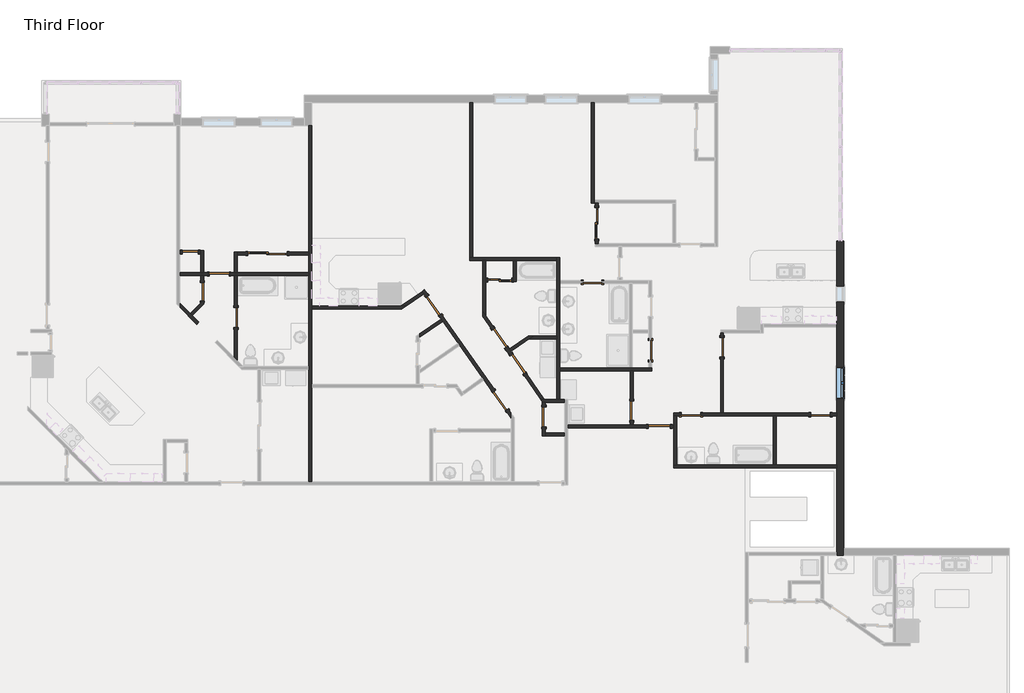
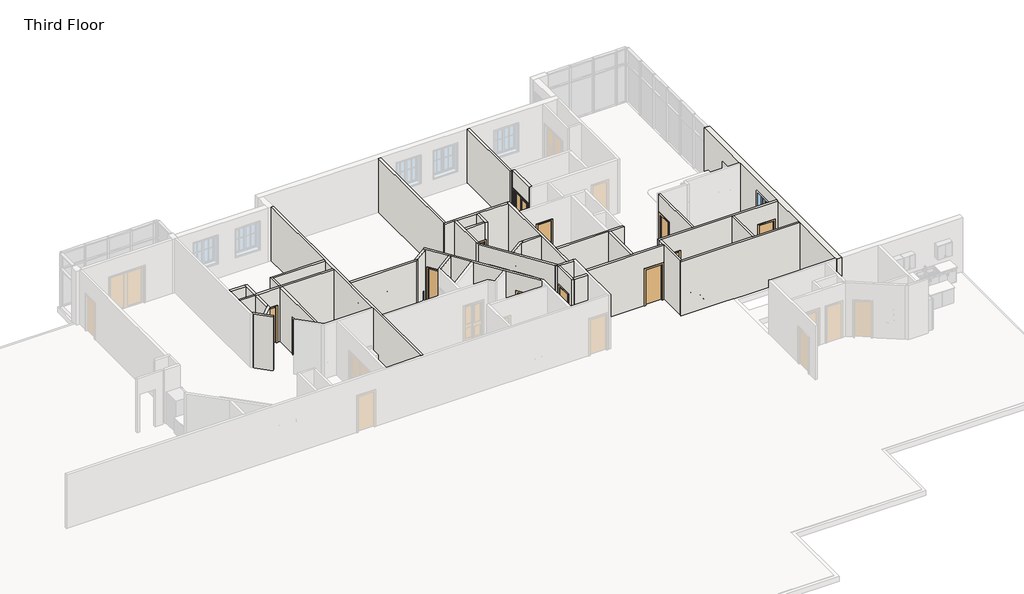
# One storey, part 11 of 17: 37 walls, 19 doors, 1 window.
"""IFC4 building model written with IfcOpenShell, lengths in millimetres."""

from ifc_helpers import new_model, si_unit, frame, origin, place, context, project, spatial, polyline, outline, extrude, faceted_brep, transform, mapped, element, save
from components import door_e2285e44, door_f2586ccf, door_2d0eeab4, door_d8f5dbb5, door_f2b275c1, door_825b8444, door_c29894e6, door_88c23cd7, door_900f836f, door_2e7ec8be, window_33528cc2

model = new_model("IFC4")

# Units and contexts
model_context = context("Model", 3, world=origin())
ifc_project = project(units=[si_unit("LENGTHUNIT", "METRE", prefix="MILLI")], contexts=[model_context])

# Site, building, storey
site = spatial("IfcSite", under=ifc_project)
building = spatial("IfcBuilding", under=site)
storey = spatial("IfcBuildingStorey", under=building, Name="Third Floor", Elevation=6096.0)

# Doors
placement = place(None, origin())
door_shape = door_e2285e44(model_context)
element("IfcDoor", 1, ObjectType="Single-Flush : 24\" x 80\"", at=placement, inside=storey, context=model_context, shape_type="MappedRepresentation", body=[
    mapped(door_shape, transform((32134.1490863, 11206.8738431, 6096.0), x_axis=(-1.0, 0.0, 0.0), y_axis=(0.0, -1.0, 0.0), z_axis=(0.0, 0.0, 1.0))),
])
door_2_shape = door_f2586ccf(model_context)
element("IfcDoor", 2, ObjectType="Single-Flush : 28\" x 80\"", at=placement, inside=storey, context=model_context, shape_type="MappedRepresentation", body=[
    mapped(door_2_shape, transform((32600.8503506, 9684.7566317, 6096.0), x_axis=(0.0, -1.0, 0.0), y_axis=(1.0, 0.0, 0.0), z_axis=(0.0, 0.0, 1.0))),
])
door_3_shape = door_2d0eeab4(model_context)
element("IfcDoor", 3, ObjectType="Single-Flush : 28\" x 80\"", at=placement, inside=storey, context=model_context, shape_type="MappedRepresentation", body=[
    mapped(door_3_shape, transform((47614.8260153, 10045.1667096, 6096.0), x_axis=(1.0, 0.0, 0.0), y_axis=(0.0, 1.0, 0.0), z_axis=(0.0, 0.0, 1.0))),
])
door_4_shape = door_d8f5dbb5(model_context)
element("IfcDoor", 4, ObjectType="Single-Flush : 30\" x 80\"", at=placement, inside=storey, context=model_context, shape_type="MappedRepresentation", body=[
    mapped(door_4_shape, transform((45750.4941402, 4857.5393477, 6096.0), x_axis=(0.0, 1.0, 0.0), y_axis=(-1.0, 0.0, 0.0), z_axis=(0.0, 0.0, 1.0))),
])
element("IfcDoor", 5, ObjectType="Single-Flush : 30\" x 80\"", at=placement, inside=storey, context=model_context, shape_type="MappedRepresentation", body=[
    mapped(door_4_shape, transform((51410.1982354, 4944.5386142, 6096.0), x_axis=(-1.0, 0.0, 0.0), y_axis=(0.0, -1.0, 0.0), z_axis=(0.0, 0.0, 1.0))),
])
element("IfcDoor", 6, ObjectType="Single-Flush : 30\" x 80\"", at=placement, inside=storey, context=model_context, shape_type="MappedRepresentation", body=[
    mapped(door_4_shape, transform((49850.4788879, 7420.455328, 6096.0), x_axis=(0.0, -1.0, 0.0), y_axis=(1.0, 0.0, 0.0), z_axis=(0.0, 0.0, 1.0))),
])
door_5_shape = door_f2b275c1(model_context)
element("IfcDoor", 7, ObjectType="Single-Flush : 30\" x 80\"", at=placement, inside=storey, context=model_context, shape_type="MappedRepresentation", body=[
    mapped(door_5_shape, transform((33248.5503506, 10357.9910099, 6096.0), x_axis=(-1.0, 0.0, 0.0), y_axis=(0.0, -1.0, 0.0), z_axis=(0.0, 0.0, 1.0))),
])
element("IfcDoor", 8, ObjectType="Single-Flush : 30\" x 80\"", at=placement, inside=storey, context=model_context, shape_type="MappedRepresentation", body=[
    mapped(door_5_shape, transform((33896.2503506, 8681.5910099, 6096.0), x_axis=(0.0, 1.0, 0.0), y_axis=(-1.0, 0.0, 0.0), z_axis=(0.0, 0.0, 1.0))),
])
element("IfcDoor", 9, ObjectType="Single-Flush : 30\" x 80\"", at=placement, inside=storey, context=model_context, shape_type="MappedRepresentation", body=[
    mapped(door_5_shape, transform((49133.9272963, 5096.9386142, 6096.0), x_axis=(0.0, -1.0, 0.0), y_axis=(1.0, 0.0, 0.0), z_axis=(0.0, 0.0, 1.0))),
])
element("IfcDoor", 10, ObjectType="Single-Flush : 30\" x 80\"", at=placement, inside=storey, context=model_context, shape_type="MappedRepresentation", body=[
    mapped(door_5_shape, transform((52607.3485135, 7538.9439464, 6096.0), x_axis=(0.0, 1.0, 0.0), y_axis=(-1.0, 0.0, 0.0), z_axis=(0.0, 0.0, 1.0))),
])
element("IfcDoor", 11, ObjectType="Single-Flush : 30\" x 80\"", at=placement, inside=storey, context=model_context, shape_type="MappedRepresentation", body=[
    mapped(door_5_shape, transform((56399.0962704, 4944.5386142, 6096.0), x_axis=(1.0, 0.0, 0.0), y_axis=(0.0, 1.0, 0.0), z_axis=(0.0, 0.0, 1.0))),
])
door_6_shape = door_825b8444(model_context)
element("IfcDoor", 12, ObjectType="Single-Flush : 34\" x 80\"", at=placement, inside=storey, context=model_context, shape_type="MappedRepresentation", body=[
    mapped(door_6_shape, transform((44075.379577, 5485.5706082, 6096.0), x_axis=(0.5735764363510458, -0.8191520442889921, 0.0), y_axis=(0.8191520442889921, 0.5735764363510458, 0.0), z_axis=(0.0, 0.0, 1.0))),
])
element("IfcDoor", 13, ObjectType="Single-Flush : 34\" x 80\"", at=placement, inside=storey, context=model_context, shape_type="MappedRepresentation", body=[
    mapped(door_6_shape, transform((44748.5781815, 6887.1795824, 6096.0), x_axis=(-0.5735764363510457, 0.819152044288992, 0.0), y_axis=(-0.819152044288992, -0.5735764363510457, 0.0), z_axis=(0.0, 0.0, 1.0))),
])
door_7_shape = door_c29894e6(model_context)
element("IfcDoor", 14, ObjectType="Single-Flush : 34\" x 80\"", at=placement, inside=storey, context=model_context, shape_type="MappedRepresentation", body=[
    mapped(door_7_shape, transform((41510.2711658, 9148.9250727, 6096.0), x_axis=(-0.5735764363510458, 0.8191520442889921, 0.0), y_axis=(-0.8191520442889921, -0.5735764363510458, 0.0), z_axis=(0.0, 0.0, 1.0))),
])
element("IfcDoor", 15, ObjectType="Single-Flush : 34\" x 80\"", at=placement, inside=storey, context=model_context, shape_type="MappedRepresentation", body=[
    mapped(door_7_shape, transform((44049.2737903, 7885.8897548, 6096.0), x_axis=(0.5735764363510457, -0.819152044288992, 0.0), y_axis=(0.819152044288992, 0.5735764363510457, 0.0), z_axis=(0.0, 0.0, 1.0))),
])
element("IfcDoor", 16, ObjectType="Single-Flush : 34\" x 80\"", at=placement, inside=storey, context=model_context, shape_type="MappedRepresentation", body=[
    mapped(door_7_shape, transform((50190.9982354, 4487.3386142, 6096.0), x_axis=(1.0, 0.0, 0.0), y_axis=(0.0, 1.0, 0.0), z_axis=(0.0, 0.0, 1.0))),
])
door_8_shape = door_88c23cd7(model_context)
element("IfcDoor", 17, ObjectType="Sliding-Closet : 36\" x 80\"", at=placement, inside=storey, context=model_context, shape_type="MappedRepresentation", body=[
    mapped(door_8_shape, transform((44050.8019535, 10258.3378349, 6096.0), x_axis=(-1.0, 0.0, 0.0), y_axis=(0.0, -1.0, 0.0), z_axis=(0.0, 0.0, 1.0))),
])
door_9_shape = door_900f836f(model_context)
element("IfcDoor", 18, ObjectType="Sliding-Closet : 48\" x 80\"", at=placement, inside=storey, context=model_context, shape_type="MappedRepresentation", body=[
    mapped(door_9_shape, transform((47915.2940143, 12314.1601128, 6096.0), x_axis=(0.0, 1.0, 0.0), y_axis=(-1.0, 0.0, 0.0), z_axis=(0.0, 0.0, 1.0))),
])
door_10_shape = door_2e7ec8be(model_context)
element("IfcDoor", 19, ObjectType="Sliding-Closet : 60\" x 80\"", at=placement, inside=storey, context=model_context, shape_type="MappedRepresentation", body=[
    mapped(door_10_shape, transform((35115.4503506, 11022.7238431, 6096.0), x_axis=(1.0, 0.0, 0.0), y_axis=(0.0, 1.0, 0.0), z_axis=(0.0, 0.0, 1.0))),
])

# Walls
element("IfcWall", 20, ObjectType="Exterior - Brick on Wood Stud", at=placement, inside=storey, context=model_context, shape_type="Brep", body=[
    faceted_brep([(57019.8087704, 11632.2044819, 6096.0), (57019.8087704, 8425.9167096, 6096.0), (57019.8087704, 8311.6167096, 6096.0), (57019.8087704, 5001.6886142, 6096.0), (57019.8087704, 4887.3886142, 6096.0), (57019.8087704, 3002.5544819, 6096.0), (57019.8087704, 2888.2544819, 6096.0), (57019.8087704, -370.8512558, 6096.0), (57019.8087704, -485.1512558, 6096.0), (57019.8087704, -485.1512558, 9144.0), (57019.8087704, -370.8512558, 9144.0), (57019.8087704, 2888.2544819, 9144.0), (57019.8087704, 3002.5544819, 9144.0), (57019.8087704, 4887.3886142, 9144.0), (57019.8087704, 5001.6886142, 9144.0), (57019.8087704, 8311.6167096, 9144.0), (57019.8087704, 8425.9167096, 9144.0), (57019.8087704, 11632.2044819, 9144.0), (57019.8087704, 5554.1386142, 8534.4), (57019.8087704, 5554.1386142, 7010.4), (57019.8087704, 6773.3386142, 7010.4), (57019.8087704, 6773.3386142, 8534.4), (57019.8087704, 9283.1667096, 8229.6), (57019.8087704, 9283.1667096, 7010.4), (57019.8087704, 9892.7667096, 7010.4), (57019.8087704, 9892.7667096, 8229.6), (57302.3837704, 11632.2044819, 6096.0), (57302.3837704, 11632.2044819, 9144.0), (57302.3837704, -202.5762558, 9144.0), (57302.3837704, -485.1512558, 9144.0), (57302.3837704, -485.1512558, 6096.0), (57302.3837704, -202.5762558, 6096.0), (57302.3837704, 5554.1386142, 8534.4), (57302.3837704, 6773.3386142, 8534.4), (57302.3837704, 6773.3386142, 7010.4), (57302.3837704, 5554.1386142, 7010.4), (57302.3837704, 9283.1667096, 8229.6), (57302.3837704, 9892.7667096, 8229.6), (57302.3837704, 9892.7667096, 7010.4), (57302.3837704, 9283.1667096, 7010.4)], [[[0, 1, 2, 3, 4, 5, 6, 7, 8, 9, 10, 11, 12, 13, 14, 15, 16, 17], [18, 19, 20, 21], [22, 23, 24, 25]], [[26, 27, 28, 29, 30, 31], [32, 33, 34, 35], [36, 37, 38, 39]], [[8, 7, 6, 5, 4, 3, 2, 1, 0, 26, 31, 30]], [[17, 16, 15, 14, 13, 12, 11, 10, 9, 29, 28, 27]], [[0, 17, 27, 26]], [[19, 18, 32, 35]], [[20, 19, 35, 34]], [[21, 20, 34, 33]], [[18, 21, 33, 32]], [[23, 22, 36, 39]], [[24, 23, 39, 38]], [[25, 24, 38, 37]], [[22, 25, 37, 36]], [[9, 8, 30, 29]]]),
])
element("IfcWall", 21, ObjectType="Interior - 4 1/2\" Partition", at=placement, inside=storey, context=model_context, shape_type="Brep", body=[
    faceted_brep([(57019.8087704, 3002.5544819, 6096.0), (54695.8146836, 3002.5544819, 6096.0), (54581.5146836, 3002.5544819, 6096.0), (50857.7482354, 3002.5544819, 6096.0), (50743.4482354, 3002.5544819, 6096.0), (50743.4482354, 3002.5544819, 9144.0), (50857.7482354, 3002.5544819, 9144.0), (54581.5146836, 3002.5544819, 9144.0), (54695.8146836, 3002.5544819, 9144.0), (57019.8087704, 3002.5544819, 9144.0), (57019.8087704, 2888.2544819, 6096.0), (57019.8087704, 2888.2544819, 9144.0), (50743.4482354, 2888.2544819, 9144.0), (50743.4482354, 2888.2544819, 6096.0)], [[[0, 1, 2, 3, 4, 5, 6, 7, 8, 9]], [[10, 11, 12, 13]], [[4, 3, 2, 1, 0, 10, 13]], [[9, 8, 7, 6, 5, 12, 11]], [[5, 4, 13, 12]], [[0, 9, 11, 10]]]),
])
element("IfcWall", 22, ObjectType="Interior - 4 1/2\" Partition", at=placement, inside=storey, context=model_context, shape_type="Brep", body=[
    faceted_brep([(50857.7482354, 3002.5544819, 6096.0), (50857.7482354, 4887.3886142, 6096.0), (50857.7482354, 4887.3886142, 9144.0), (50857.7482354, 3002.5544819, 9144.0), (50743.4482354, 3002.5544819, 6096.0), (50743.4482354, 3002.5544819, 9144.0), (50743.4482354, 4430.1886142, 9144.0), (50743.4482354, 4544.4886142, 9144.0), (50743.4482354, 4887.3886142, 9144.0), (50743.4482354, 4887.3886142, 6096.0), (50743.4482354, 4544.4886142, 6096.0), (50743.4482354, 4430.1886142, 6096.0)], [[[0, 1, 2, 3]], [[4, 5, 6, 7, 8, 9, 10, 11]], [[1, 0, 4, 11, 10, 9]], [[3, 2, 8, 7, 6, 5]], [[2, 1, 9, 8]], [[0, 3, 5, 4]]]),
])
element("IfcWall", 23, ObjectType="Interior - 4 1/2\" Partition", at=placement, inside=storey, context=model_context, shape_type="Brep", body=[
    faceted_brep([(50743.4482354, 4544.4886142, 6096.0), (50622.7982354, 4544.4886142, 6096.0), (50622.7982354, 4544.4886142, 8128.0), (49759.1982354, 4544.4886142, 8128.0), (49759.1982354, 4544.4886142, 6096.0), (49191.0772963, 4544.4886142, 6096.0), (49076.7772963, 4544.4886142, 6096.0), (46668.7626872, 4544.4886142, 6096.0), (46668.7626872, 4544.4886142, 9144.0), (49076.7772963, 4544.4886142, 9144.0), (49191.0772963, 4544.4886142, 9144.0), (50743.4482354, 4544.4886142, 9144.0), (50622.7982354, 4430.1886142, 8128.0), (50622.7982354, 4430.1886142, 6096.0), (50743.4482354, 4430.1886142, 6096.0), (50743.4482354, 4430.1886142, 9144.0), (46668.7626872, 4430.1886142, 9144.0), (46668.7626872, 4430.1886142, 6096.0), (49759.1982354, 4430.1886142, 6096.0), (49759.1982354, 4430.1886142, 8128.0)], [[[0, 1, 2, 3, 4, 5, 6, 7, 8, 9, 10, 11]], [[12, 13, 14, 15, 16, 17, 18, 19]], [[18, 17, 7, 6, 5, 4]], [[14, 13, 1, 0]], [[11, 10, 9, 8, 16, 15]], [[2, 1, 13, 12]], [[3, 2, 12, 19]], [[4, 3, 19, 18]], [[8, 7, 17, 16]], [[0, 11, 15, 14]]]),
])
element("IfcWall", 24, ObjectType="Interior - 4 1/2\" Partition", at=placement, inside=storey, context=model_context, shape_type="Brep", body=[
    faceted_brep([(46554.4626872, 5524.2893477, 6096.0), (46352.4352525, 5524.2893477, 6096.0), (46238.1352525, 5524.2893477, 6096.0), (45772.6514653, 5524.2893477, 6096.0), (45633.1169298, 5524.2893477, 6096.0), (45633.1169298, 5524.2893477, 9144.0), (45772.6514653, 5524.2893477, 9144.0), (46238.1352525, 5524.2893477, 9144.0), (46352.4352525, 5524.2893477, 9144.0), (46554.4626872, 5524.2893477, 9144.0), (46554.4626872, 5409.9893477, 6096.0), (46554.4626872, 5409.9893477, 9144.0), (45807.6441402, 5409.9893477, 9144.0), (45713.1506514, 5409.9893477, 9144.0), (45713.1506514, 5409.9893477, 6096.0), (45807.6441402, 5409.9893477, 6096.0), (45693.3441402, 5438.2759773, 6096.0), (45693.3441402, 5438.2759773, 9144.0)], [[[0, 1, 2, 3, 4, 5, 6, 7, 8, 9]], [[10, 11, 12, 13, 14, 15]], [[4, 3, 2, 1, 0, 10, 15, 14, 16]], [[9, 8, 7, 6, 5, 17, 13, 12, 11]], [[5, 4, 16, 14, 13, 17]], [[0, 9, 11, 10]]]),
])
element("IfcWall", 25, ObjectType="Interior - 4 1/2\" Partition", at=placement, inside=storey, context=model_context, shape_type="Brep", body=[
    faceted_brep([(46352.4352525, 5524.2893477, 6096.0), (46352.4352525, 6635.2167096, 6096.0), (46352.4352525, 6749.5167096, 6096.0), (46352.4352525, 9988.0167096, 6096.0), (46352.4352525, 10102.3167096, 6096.0), (46352.4352525, 11001.2878349, 6096.0), (46352.4352525, 11001.2878349, 9144.0), (46352.4352525, 10102.3167096, 9144.0), (46352.4352525, 9988.0167096, 9144.0), (46352.4352525, 6749.5167096, 9144.0), (46352.4352525, 6635.2167096, 9144.0), (46352.4352525, 5524.2893477, 9144.0), (46238.1352525, 5524.2893477, 6096.0), (46238.1352525, 5524.2893477, 9144.0), (46238.1352525, 7864.8634145, 9144.0), (46238.1352525, 7979.1634145, 9144.0), (46238.1352525, 10886.9878349, 9144.0), (46238.1352525, 11001.2878349, 9144.0), (46238.1352525, 11001.2878349, 6096.0), (46238.1352525, 10886.9878349, 6096.0), (46238.1352525, 7979.1634145, 6096.0), (46238.1352525, 7864.8634145, 6096.0)], [[[0, 1, 2, 3, 4, 5, 6, 7, 8, 9, 10, 11]], [[12, 13, 14, 15, 16, 17, 18, 19, 20, 21]], [[5, 4, 3, 2, 1, 0, 12, 21, 20, 19, 18]], [[11, 10, 9, 8, 7, 6, 17, 16, 15, 14, 13]], [[6, 5, 18, 17]], [[0, 11, 13, 12]]]),
])
element("IfcWall", 26, ObjectType="Interior - 4 1/2\" Partition", at=placement, inside=storey, context=model_context, shape_type="Brep", body=[
    faceted_brep([(46238.1352525, 11001.2878349, 6096.0), (43004.4928001, 11001.2878349, 6096.0), (42890.1928001, 11001.2878349, 6096.0), (42890.1928001, 11001.2878349, 9144.0), (43004.4928001, 11001.2878349, 9144.0), (46238.1352525, 11001.2878349, 9144.0), (46238.1352525, 10886.9878349, 6096.0), (46238.1352525, 10886.9878349, 9144.0), (44678.4640263, 10886.9878349, 9144.0), (44564.1640263, 10886.9878349, 9144.0), (43512.0398807, 10886.9878349, 9144.0), (43397.7398807, 10886.9878349, 9144.0), (42890.1928001, 10886.9878349, 9144.0), (42890.1928001, 10886.9878349, 6096.0), (43397.7398807, 10886.9878349, 6096.0), (43512.0398807, 10886.9878349, 6096.0), (44564.1640263, 10886.9878349, 6096.0), (44678.4640263, 10886.9878349, 6096.0)], [[[0, 1, 2, 3, 4, 5]], [[6, 7, 8, 9, 10, 11, 12, 13, 14, 15, 16, 17]], [[2, 1, 0, 6, 17, 16, 15, 14, 13]], [[5, 4, 3, 12, 11, 10, 9, 8, 7]], [[3, 2, 13, 12]], [[0, 5, 7, 6]]]),
])
element("IfcWall", 27, ObjectType="Interior - 4 1/2\" Partition", at=placement, inside=storey, context=model_context, shape_type="SweptSolid", body=[
    extrude(outline(polyline([(43004.4928001, 16964.1039258), (43004.4928001, 11001.2878349), (42890.1928001, 11001.2878349), (42890.1928001, 16964.1039258), (43004.4928001, 16964.1039258)])), frame((0.0, 0.0, 6096.0), z_axis=(0.0, 0.0, 1.0), x_axis=(1.0, 0.0, 0.0)), (0.0, 0.0, 1.0), 3048.0),
])
element("IfcWall", 28, ObjectType="Interior - 4 1/2\" Partition", at=placement, inside=storey, context=model_context, shape_type="Brep", body=[
    faceted_brep([(47578.7440143, 16964.1039258, 6096.0), (47578.7440143, 13091.2456698, 6096.0), (47578.7440143, 13091.2456698, 9144.0), (47578.7440143, 16964.1039258, 9144.0), (47693.0440143, 16964.1039258, 6096.0), (47693.0440143, 16964.1039258, 9144.0), (47693.0440143, 13205.5456698, 9144.0), (47693.0440143, 13091.2456698, 9144.0), (47693.0440143, 13091.2456698, 6096.0), (47693.0440143, 13205.5456698, 6096.0)], [[[0, 1, 2, 3]], [[4, 5, 6, 7, 8, 9]], [[1, 0, 4, 9, 8]], [[3, 2, 7, 6, 5]], [[2, 1, 8, 7]], [[0, 3, 5, 4]]]),
])
element("IfcWall", 29, ObjectType="Interior - 4 1/2\" Partition", at=placement, inside=storey, context=model_context, shape_type="SweptSolid", body=[
    extrude(outline(polyline([(13091.2456698, 6096.0), (12923.7601128, 6096.0), (12923.7601128, 8128.0), (11704.5601128, 8128.0), (11704.5601128, 6096.0), (11537.0745559, 6096.0), (11537.0745559, 9144.0), (13091.2456698, 9144.0), (13091.2456698, 6096.0)])), frame((47731.1440143, 0.0, 0.0), z_axis=(1.0, 0.0, 0.0), x_axis=(0.0, 1.0, 0.0)), (0.0, 0.0, 1.0), 114.3),
])
element("IfcWall", 30, ObjectType="Interior - 4 1/2\" Partition", at=placement, inside=storey, context=model_context, shape_type="Brep", body=[
    faceted_brep([(46352.4352525, 6635.2167096, 6096.0), (49076.7772963, 6635.2167096, 6096.0), (49191.0772963, 6635.2167096, 6096.0), (49907.6288879, 6635.2167096, 6096.0), (49907.6288879, 6635.2167096, 9144.0), (49191.0772963, 6635.2167096, 9144.0), (49076.7772963, 6635.2167096, 9144.0), (46352.4352525, 6635.2167096, 9144.0), (46352.4352525, 6749.5167096, 6096.0), (46352.4352525, 6749.5167096, 9144.0), (49032.3272963, 6749.5167096, 9144.0), (49146.6272963, 6749.5167096, 9144.0), (49793.3288879, 6749.5167096, 9144.0), (49907.6288879, 6749.5167096, 9144.0), (49907.6288879, 6749.5167096, 6096.0), (49793.3288879, 6749.5167096, 6096.0), (49146.6272963, 6749.5167096, 6096.0), (49032.3272963, 6749.5167096, 6096.0)], [[[0, 1, 2, 3, 4, 5, 6, 7]], [[8, 9, 10, 11, 12, 13, 14, 15, 16, 17]], [[3, 2, 1, 0, 8, 17, 16, 15, 14]], [[7, 6, 5, 4, 13, 12, 11, 10, 9]], [[4, 3, 14, 13]], [[0, 7, 9, 8]]]),
])
element("IfcWall", 31, ObjectType="Interior - 4 1/2\" Partition", at=placement, inside=storey, context=model_context, shape_type="SweptSolid", body=[
    extrude(outline(polyline([(4715.9386142, 8128.0), (4715.9386142, 6096.0), (4544.4886142, 6096.0), (4544.4886142, 9144.0), (6635.2167096, 9144.0), (6635.2167096, 6096.0), (5477.9386142, 6096.0), (5477.9386142, 8128.0), (4715.9386142, 8128.0)])), frame((49076.7772963, 0.0, 0.0), z_axis=(1.0, 0.0, 0.0), x_axis=(0.0, 1.0, 0.0)), (0.0, 0.0, 1.0), 114.3),
])
element("IfcWall", 32, ObjectType="Interior - 4 1/2\" Partition", at=placement, inside=storey, context=model_context, shape_type="Brep", body=[
    faceted_brep([(57019.8087704, 5001.6886142, 6096.0), (56780.0962704, 5001.6886142, 6096.0), (56780.0962704, 5001.6886142, 8128.0), (56018.0962704, 5001.6886142, 8128.0), (56018.0962704, 5001.6886142, 6096.0), (52664.4985135, 5001.6886142, 6096.0), (52550.1985135, 5001.6886142, 6096.0), (51791.1982354, 5001.6886142, 6096.0), (51791.1982354, 5001.6886142, 8128.0), (51029.1982354, 5001.6886142, 8128.0), (51029.1982354, 5001.6886142, 6096.0), (50743.4482354, 5001.6886142, 6096.0), (50743.4482354, 5001.6886142, 9144.0), (52550.1985135, 5001.6886142, 9144.0), (52664.4985135, 5001.6886142, 9144.0), (57019.8087704, 5001.6886142, 9144.0), (56780.0962704, 4887.3886142, 8128.0), (56780.0962704, 4887.3886142, 6096.0), (57019.8087704, 4887.3886142, 6096.0), (57019.8087704, 4887.3886142, 9144.0), (54695.8146836, 4887.3886142, 9144.0), (54581.5146836, 4887.3886142, 9144.0), (50857.7482354, 4887.3886142, 9144.0), (50743.4482354, 4887.3886142, 9144.0), (50743.4482354, 4887.3886142, 6096.0), (50857.7482354, 4887.3886142, 6096.0), (51029.1982354, 4887.3886142, 6096.0), (51029.1982354, 4887.3886142, 8128.0), (51791.1982354, 4887.3886142, 8128.0), (51791.1982354, 4887.3886142, 6096.0), (54581.5146836, 4887.3886142, 6096.0), (54695.8146836, 4887.3886142, 6096.0), (56018.0962704, 4887.3886142, 6096.0), (56018.0962704, 4887.3886142, 8128.0)], [[[0, 1, 2, 3, 4, 5, 6, 7, 8, 9, 10, 11, 12, 13, 14, 15]], [[16, 17, 18, 19, 20, 21, 22, 23, 24, 25, 26, 27, 28, 29, 30, 31, 32, 33]], [[11, 10, 26, 25, 24]], [[18, 17, 1, 0]], [[32, 31, 30, 29, 7, 6, 5, 4]], [[15, 14, 13, 12, 23, 22, 21, 20, 19]], [[27, 26, 10, 9]], [[28, 27, 9, 8]], [[29, 28, 8, 7]], [[2, 1, 17, 16]], [[3, 2, 16, 33]], [[4, 3, 33, 32]], [[12, 11, 24, 23]], [[0, 15, 19, 18]]]),
])
element("IfcWall", 33, ObjectType="Interior - 4 1/2\" Partition", at=placement, inside=storey, context=model_context, shape_type="SweptSolid", body=[
    extrude(outline(polyline([(54581.5146836, 3002.5544819), (54581.5146836, 4887.3886142), (54695.8146836, 4887.3886142), (54695.8146836, 3002.5544819), (54581.5146836, 3002.5544819)])), frame((0.0, 0.0, 6096.0), z_axis=(0.0, 0.0, 1.0), x_axis=(1.0, 0.0, 0.0)), (0.0, 0.0, 1.0), 3048.0),
])
element("IfcWall", 34, ObjectType="Interior - 4 1/2\" Partition", at=placement, inside=storey, context=model_context, shape_type="SweptSolid", body=[
    extrude(outline(polyline([(8091.3939464, 6096.0), (7919.9439464, 6096.0), (7919.9439464, 8128.0), (7157.9439464, 8128.0), (7157.9439464, 6096.0), (5001.6886142, 6096.0), (5001.6886142, 9144.0), (8091.3939464, 9144.0), (8091.3939464, 6096.0)])), frame((52550.1985135, 0.0, 0.0), z_axis=(1.0, 0.0, 0.0), x_axis=(0.0, 1.0, 0.0)), (0.0, 0.0, 1.0), 114.3),
])
element("IfcWall", 35, ObjectType="Interior - 4 1/2\" Partition", at=placement, inside=storey, context=model_context, shape_type="Brep", body=[
    faceted_brep([(36816.4178001, 2359.3591714, 6096.0), (36816.4178001, 5991.110079, 6096.0), (36816.4178001, 6105.410079, 6096.0), (36816.4178001, 9005.4410099, 6096.0), (36816.4178001, 9119.7410099, 6096.0), (36816.4178001, 16077.0865339, 6096.0), (36816.4178001, 16077.0865339, 9144.0), (36816.4178001, 9119.7410099, 9144.0), (36816.4178001, 9005.4410099, 9144.0), (36816.4178001, 6105.410079, 9144.0), (36816.4178001, 5991.110079, 9144.0), (36816.4178001, 2359.3591714, 9144.0), (36702.1178001, 2359.3591714, 6096.0), (36702.1178001, 2359.3591714, 9144.0), (36702.1178001, 6691.8559423, 9144.0), (36702.1178001, 6806.1559423, 9144.0), (36702.1178001, 10300.8410099, 9144.0), (36702.1178001, 10415.1410099, 9144.0), (36702.1178001, 11092.5738431, 9144.0), (36702.1178001, 11206.8738431, 9144.0), (36702.1178001, 16077.0865339, 9144.0), (36702.1178001, 16077.0865339, 6096.0), (36702.1178001, 11206.8738431, 6096.0), (36702.1178001, 11092.5738431, 6096.0), (36702.1178001, 10415.1410099, 6096.0), (36702.1178001, 10300.8410099, 6096.0), (36702.1178001, 6806.1559423, 6096.0), (36702.1178001, 6691.8559423, 6096.0)], [[[0, 1, 2, 3, 4, 5, 6, 7, 8, 9, 10, 11]], [[12, 13, 14, 15, 16, 17, 18, 19, 20, 21, 22, 23, 24, 25, 26, 27]], [[5, 4, 3, 2, 1, 0, 12, 27, 26, 25, 24, 23, 22, 21]], [[11, 10, 9, 8, 7, 6, 20, 19, 18, 17, 16, 15, 14, 13]], [[0, 11, 13, 12]], [[6, 5, 21, 20]]]),
])
element("IfcWall", 36, ObjectType="Interior - 4 1/2\" Partition", at=placement, inside=storey, context=model_context, shape_type="Brep", body=[
    faceted_brep([(41309.4153999, 9535.4148188, 8128.0), (41309.4153999, 9535.4148188, 6096.0), (41154.070698, 9757.2700452, 6096.0), (41154.070698, 9757.2700452, 9144.0), (44491.9949591, 4990.220165, 9144.0), (44491.9949591, 4990.220165, 6096.0), (44369.8644215, 5164.6406488, 6096.0), (44369.8644215, 5164.6406488, 8128.0), (43874.5238111, 5872.0603542, 8128.0), (43874.5238111, 5872.0603542, 6096.0), (41804.7560103, 8827.9951134, 6096.0), (41804.7560103, 8827.9951134, 8128.0), (41060.4416193, 9691.7102585, 6096.0), (41126.001406, 9598.0811798, 6096.0), (41215.7863212, 9469.8550321, 6096.0), (41215.7863212, 9469.8550321, 8128.0), (41711.1269316, 8762.4353267, 8128.0), (41711.1269316, 8762.4353267, 6096.0), (41800.9118469, 8634.209179, 6096.0), (41866.4716335, 8540.5801003, 6096.0), (42452.1089123, 7704.203388, 6096.0), (42517.668699, 7610.5743093, 6096.0), (43383.893802, 6373.476655, 6096.0), (43449.4535887, 6279.8475763, 6096.0), (43780.8947324, 5806.5005676, 6096.0), (43780.8947324, 5806.5005676, 8128.0), (44276.2353429, 5099.0808621, 8128.0), (44276.2353429, 5099.0808621, 6096.0), (44491.9949591, 4790.9441963, 6096.0), (44491.9949591, 4790.9441963, 9144.0), (43449.4535887, 6279.8475763, 9144.0), (43383.893802, 6373.476655, 9144.0), (42517.668699, 7610.5743093, 9144.0), (42452.1089123, 7704.203388, 9144.0), (41866.4716335, 8540.5801003, 9144.0), (41800.9118469, 8634.209179, 9144.0), (41126.001406, 9598.0811798, 9144.0), (41060.4416193, 9691.7102585, 9144.0)], [[[0, 1, 2, 3, 4, 5, 6, 7, 8, 9, 10, 11]], [[12, 13, 14, 15, 16, 17, 18, 19, 20, 21, 22, 23, 24, 25, 26, 27, 28, 29, 30, 31, 32, 33, 34, 35, 36, 37]], [[28, 27, 6, 5]], [[10, 9, 24, 23, 22, 21, 20, 19, 18, 17]], [[2, 1, 14, 13, 12]], [[4, 3, 37, 36, 35, 34, 33, 32, 31, 30, 29]], [[7, 6, 27, 26]], [[8, 7, 26, 25]], [[9, 8, 25, 24]], [[15, 14, 1, 0]], [[16, 15, 0, 11]], [[17, 16, 11, 10]], [[3, 2, 12, 37]], [[5, 4, 29, 28]]]),
])
element("IfcWall", 37, ObjectType="Interior - 4 1/2\" Partition", at=placement, inside=storey, context=model_context, shape_type="SweptSolid", body=[
    extrude(outline(polyline([(41866.4716335, 8540.5801003), (40960.0847694, 7905.9211855), (40960.0847694, 8045.455721), (41800.9118469, 8634.209179), (41866.4716335, 8540.5801003)])), frame((0.0, 0.0, 6096.0), z_axis=(0.0, 0.0, 1.0), x_axis=(1.0, 0.0, 0.0)), (0.0, 0.0, 1.0), 3048.0),
])
element("IfcWall", 38, ObjectType="Interior - 4 1/2\" Partition", at=placement, inside=storey, context=model_context, shape_type="SweptSolid", body=[
    extrude(outline(polyline([(45807.6441402, 4238.9591714), (46554.4626872, 4238.9591714), (46554.4626872, 4124.6591714), (45807.6441402, 4124.6591714), (45807.6441402, 4238.9591714)])), frame((0.0, 0.0, 6096.0), z_axis=(0.0, 0.0, 1.0), x_axis=(1.0, 0.0, 0.0)), (0.0, 0.0, 1.0), 3048.0),
])
element("IfcWall", 39, ObjectType="Interior - 4 1/2\" Partition", at=placement, inside=storey, context=model_context, shape_type="Brep", body=[
    faceted_brep([(45807.6441402, 5238.5393477, 8128.0), (45807.6441402, 5238.5393477, 6096.0), (45807.6441402, 5409.9893477, 6096.0), (45807.6441402, 5409.9893477, 9144.0), (45807.6441402, 4238.9591714, 9144.0), (45807.6441402, 4124.6591714, 9144.0), (45807.6441402, 4124.6591714, 6096.0), (45807.6441402, 4238.9591714, 6096.0), (45807.6441402, 4476.5393477, 6096.0), (45807.6441402, 4476.5393477, 8128.0), (45693.3441402, 5438.2759773, 6096.0), (45693.3441402, 5238.5393477, 6096.0), (45693.3441402, 5238.5393477, 8128.0), (45693.3441402, 4476.5393477, 8128.0), (45693.3441402, 4476.5393477, 6096.0), (45693.3441402, 4124.6591714, 6096.0), (45693.3441402, 4124.6591714, 9144.0), (45693.3441402, 5438.2759773, 9144.0), (45713.1506514, 5409.9893477, 6096.0), (45713.1506514, 5409.9893477, 9144.0)], [[[0, 1, 2, 3, 4, 5, 6, 7, 8, 9]], [[10, 11, 12, 13, 14, 15, 16, 17]], [[2, 1, 11, 10, 18]], [[8, 7, 6, 15, 14]], [[5, 4, 3, 19, 17, 16]], [[12, 11, 1, 0]], [[13, 12, 0, 9]], [[14, 13, 9, 8]], [[6, 5, 16, 15]], [[3, 2, 18, 19]], [[18, 10, 17, 19]]]),
])
element("IfcWall", 40, ObjectType="Interior - 4 1/2\" Partition", at=placement, inside=storey, context=model_context, shape_type="Brep", body=[
    faceted_brep([(44547.7224156, 7273.6693285, 8128.0), (44547.7224156, 7273.6693285, 6096.0), (44478.5204186, 7372.5000226, 6096.0), (44412.9606319, 7466.1291013, 6096.0), (44343.7586349, 7564.9597954, 6096.0), (44343.7586349, 7564.9597954, 8128.0), (43848.4180244, 8272.3795009, 8128.0), (43848.4180244, 8272.3795009, 6096.0), (43512.0398807, 8752.7772764, 6096.0), (43397.7398807, 8916.0145936, 6096.0), (43397.7398807, 8916.0145936, 9144.0), (43512.0398807, 8752.7772764, 9144.0), (44412.9606319, 7466.1291013, 9144.0), (44478.5204186, 7372.5000226, 9144.0), (45772.6514653, 5524.2893477, 9144.0), (45772.6514653, 5524.2893477, 6096.0), (45043.0630261, 6566.249623, 6096.0), (45043.0630261, 6566.249623, 8128.0), (44250.1295562, 7499.4000087, 6096.0), (44454.093337, 7208.1095418, 6096.0), (44454.093337, 7208.1095418, 8128.0), (44949.4339474, 6500.6898363, 8128.0), (44949.4339474, 6500.6898363, 6096.0), (45633.1169298, 5524.2893477, 6096.0), (45633.1169298, 5524.2893477, 9144.0), (43397.7398807, 8716.7386248, 9144.0), (43397.7398807, 8716.7386248, 6096.0), (43754.7889458, 8206.8197142, 6096.0), (43754.7889458, 8206.8197142, 8128.0), (44250.1295562, 7499.4000087, 8128.0)], [[[0, 1, 2, 3, 4, 5, 6, 7, 8, 9, 10, 11, 12, 13, 14, 15, 16, 17]], [[18, 19, 20, 21, 22, 23, 24, 25, 26, 27, 28, 29]], [[27, 26, 9, 8, 7]], [[16, 15, 23, 22]], [[4, 3, 2, 1, 19, 18]], [[14, 13, 12, 11, 10, 25, 24]], [[5, 4, 18, 29]], [[6, 5, 29, 28]], [[7, 6, 28, 27]], [[20, 19, 1, 0]], [[21, 20, 0, 17]], [[22, 21, 17, 16]], [[10, 9, 26, 25]], [[15, 14, 24, 23]]]),
])
element("IfcWall", 41, ObjectType="Interior - 4 1/2\" Partition", at=placement, inside=storey, context=model_context, shape_type="Brep", body=[
    faceted_brep([(43512.0398807, 8752.7772764, 6096.0), (43512.0398807, 10074.1878349, 6096.0), (43512.0398807, 10188.4878349, 6096.0), (43512.0398807, 10886.9878349, 6096.0), (43512.0398807, 10886.9878349, 9144.0), (43512.0398807, 10188.4878349, 9144.0), (43512.0398807, 10074.1878349, 9144.0), (43512.0398807, 8752.7772764, 9144.0), (43397.7398807, 8916.0145936, 6096.0), (43397.7398807, 8916.0145936, 9144.0), (43397.7398807, 10886.9878349, 9144.0), (43397.7398807, 10886.9878349, 6096.0)], [[[0, 1, 2, 3, 4, 5, 6, 7]], [[8, 9, 10, 11]], [[3, 2, 1, 0, 8, 11]], [[7, 6, 5, 4, 10, 9]], [[0, 7, 9, 8]], [[4, 3, 11, 10]]]),
])
element("IfcWall", 42, ObjectType="Interior - 4 1/2\" Partition", at=placement, inside=storey, context=model_context, shape_type="Brep", body=[
    faceted_brep([(44478.5204186, 7372.5000226, 6096.0), (45181.6882153, 7864.8634145, 6096.0), (45344.9255324, 7979.1634145, 6096.0), (45344.9255324, 7979.1634145, 9144.0), (45181.6882153, 7864.8634145, 9144.0), (44478.5204186, 7372.5000226, 9144.0), (44412.9606319, 7466.1291013, 6096.0), (44412.9606319, 7466.1291013, 9144.0), (45145.6495637, 7979.1634145, 9144.0), (45145.6495637, 7979.1634145, 6096.0)], [[[0, 1, 2, 3, 4, 5]], [[6, 7, 8, 9]], [[2, 1, 0, 6, 9]], [[5, 4, 3, 8, 7]], [[3, 2, 9, 8]], [[0, 5, 7, 6]]]),
])
element("IfcWall", 43, ObjectType="Interior - 4 1/2\" Partition", at=placement, inside=storey, context=model_context, shape_type="SweptSolid", body=[
    extrude(outline(polyline([(46238.1352525, 7864.8634145), (45181.6882153, 7864.8634145), (45344.9255324, 7979.1634145), (46238.1352525, 7979.1634145), (46238.1352525, 7864.8634145)])), frame((0.0, 0.0, 6096.0), z_axis=(0.0, 0.0, 1.0), x_axis=(1.0, 0.0, 0.0)), (0.0, 0.0, 1.0), 3048.0),
])
element("IfcWall", 44, ObjectType="Interior - 4 1/2\" Partition", at=placement, inside=storey, context=model_context, shape_type="Brep", body=[
    faceted_brep([(36816.4178001, 9005.4410099, 6096.0), (40279.6235286, 9005.4410099, 6096.0), (40279.6235286, 9005.4410099, 9144.0), (36816.4178001, 9005.4410099, 9144.0), (36816.4178001, 9119.7410099, 6096.0), (36816.4178001, 9119.7410099, 9144.0), (40243.584877, 9119.7410099, 9144.0), (40442.8608458, 9119.7410099, 9144.0), (40442.8608458, 9119.7410099, 6096.0), (40243.584877, 9119.7410099, 6096.0)], [[[0, 1, 2, 3]], [[4, 5, 6, 7, 8, 9]], [[1, 0, 4, 9, 8]], [[3, 2, 7, 6, 5]], [[2, 1, 8, 7]], [[0, 3, 5, 4]]]),
])
element("IfcWall", 45, ObjectType="Interior - 4 1/2\" Partition", at=placement, inside=storey, context=model_context, shape_type="SweptSolid", body=[
    extrude(outline(polyline([(41126.001406, 9598.0811798), (40442.8608458, 9119.7410099), (40243.584877, 9119.7410099), (41060.4416193, 9691.7102585), (41126.001406, 9598.0811798)])), frame((0.0, 0.0, 6096.0), z_axis=(0.0, 0.0, 1.0), x_axis=(1.0, 0.0, 0.0)), (0.0, 0.0, 1.0), 3048.0),
])
element("IfcWall", 46, ObjectType="Interior - 4 1/2\" Partition", at=placement, inside=storey, context=model_context, shape_type="Brep", body=[
    faceted_brep([(32214.8764443, 8760.7604203, 6096.0), (32658.0003506, 9203.8843266, 6096.0), (32658.0003506, 9203.8843266, 9144.0), (32214.8764443, 8760.7604203, 9144.0), (32134.0541392, 8841.5827254, 9144.0), (32543.7003506, 9251.2289368, 9144.0), (32658.0003506, 9365.5289368, 9144.0), (32658.0003506, 9365.5289368, 8128.0), (32621.6280455, 9329.1566317, 8128.0), (32621.6280455, 9329.1566317, 6096.0), (32543.7003506, 9251.2289368, 6096.0), (32134.0541392, 8841.5827254, 6096.0), (32658.0003506, 9329.1566317, 6096.0), (32658.0003506, 9329.1566317, 8128.0)], [[[0, 1, 2, 3]], [[4, 5, 6, 7, 8, 9, 10, 11]], [[1, 0, 11, 10, 9, 12]], [[3, 2, 6, 5, 4]], [[8, 13, 12, 9]], [[13, 8, 7]], [[2, 1, 12, 13, 7, 6]], [[0, 3, 4, 11]]]),
])
element("IfcWall", 47, ObjectType="Interior - 4 1/2\" Partition", at=placement, inside=storey, context=model_context, shape_type="Brep", body=[
    faceted_brep([(32658.0003506, 10300.8410099, 9144.0), (32658.0003506, 9365.5289368, 9144.0), (32658.0003506, 9365.5289368, 8128.0), (32658.0003506, 10040.3566317, 8128.0), (32658.0003506, 10040.3566317, 6096.0), (32658.0003506, 10300.8410099, 6096.0), (32543.7003506, 9251.2289368, 9144.0), (32543.7003506, 10300.8410099, 9144.0), (32543.7003506, 10300.8410099, 6096.0), (32543.7003506, 10040.3566317, 6096.0), (32543.7003506, 10040.3566317, 8128.0), (32543.7003506, 9329.1566317, 8128.0), (32543.7003506, 9329.1566317, 6096.0), (32543.7003506, 9251.2289368, 6096.0), (32621.6280455, 9329.1566317, 6096.0), (32621.6280455, 9329.1566317, 8128.0)], [[[0, 1, 2, 3, 4, 5]], [[6, 7, 8, 9, 10, 11, 12, 13]], [[13, 12, 14]], [[8, 5, 4, 9]], [[1, 0, 7, 6]], [[11, 15, 14, 12]], [[15, 11, 10, 3, 2]], [[3, 10, 9, 4]], [[0, 5, 8, 7]], [[1, 6, 13, 14, 15, 2]]]),
])
element("IfcWall", 48, ObjectType="Interior - 4 1/2\" Partition", at=placement, inside=storey, context=model_context, shape_type="Brep", body=[
    faceted_brep([(31724.597822, 10300.8410099, 6096.0), (32543.7003506, 10300.8410099, 6096.0), (32658.0003506, 10300.8410099, 6096.0), (32867.5503506, 10300.8410099, 6096.0), (32867.5503506, 10300.8410099, 8128.0), (33629.5503506, 10300.8410099, 8128.0), (33629.5503506, 10300.8410099, 6096.0), (33839.1003506, 10300.8410099, 6096.0), (33953.4003506, 10300.8410099, 6096.0), (36702.1178001, 10300.8410099, 6096.0), (36702.1178001, 10300.8410099, 9144.0), (33953.4003506, 10300.8410099, 9144.0), (33839.1003506, 10300.8410099, 9144.0), (32658.0003506, 10300.8410099, 9144.0), (32543.7003506, 10300.8410099, 9144.0), (31724.597822, 10300.8410099, 9144.0), (32867.5503506, 10415.1410099, 8128.0), (32867.5503506, 10415.1410099, 6096.0), (32658.0003506, 10415.1410099, 6096.0), (32543.7003506, 10415.1410099, 6096.0), (31724.597822, 10415.1410099, 6096.0), (31724.597822, 10415.1410099, 9144.0), (32543.7003506, 10415.1410099, 9144.0), (32658.0003506, 10415.1410099, 9144.0), (33839.1003506, 10415.1410099, 9144.0), (33953.4003506, 10415.1410099, 9144.0), (36702.1178001, 10415.1410099, 9144.0), (36702.1178001, 10415.1410099, 6096.0), (33953.4003506, 10415.1410099, 6096.0), (33839.1003506, 10415.1410099, 6096.0), (33629.5503506, 10415.1410099, 6096.0), (33629.5503506, 10415.1410099, 8128.0)], [[[0, 1, 2, 3, 4, 5, 6, 7, 8, 9, 10, 11, 12, 13, 14, 15]], [[16, 17, 18, 19, 20, 21, 22, 23, 24, 25, 26, 27, 28, 29, 30, 31]], [[20, 19, 18, 17, 3, 2, 1, 0]], [[30, 29, 28, 27, 9, 8, 7, 6]], [[15, 14, 13, 12, 11, 10, 26, 25, 24, 23, 22, 21]], [[4, 3, 17, 16]], [[5, 4, 16, 31]], [[6, 5, 31, 30]], [[0, 15, 21, 20]], [[10, 9, 27, 26]]]),
])
element("IfcWall", 49, ObjectType="Interior - 4 1/2\" Partition", at=placement, inside=storey, context=model_context, shape_type="Brep", body=[
    faceted_brep([(32658.0003506, 10415.1410099, 6096.0), (32658.0003506, 11264.0238431, 6096.0), (32658.0003506, 11264.0238431, 9144.0), (32658.0003506, 10415.1410099, 9144.0), (32543.7003506, 10415.1410099, 6096.0), (32543.7003506, 10415.1410099, 9144.0), (32543.7003506, 11149.7238431, 9144.0), (32543.7003506, 11264.0238431, 9144.0), (32543.7003506, 11264.0238431, 6096.0), (32543.7003506, 11149.7238431, 6096.0)], [[[0, 1, 2, 3]], [[4, 5, 6, 7, 8, 9]], [[1, 0, 4, 9, 8]], [[3, 2, 7, 6, 5]], [[2, 1, 8, 7]], [[0, 3, 5, 4]]]),
])
element("IfcWall", 50, ObjectType="Interior - 4 1/2\" Partition", at=placement, inside=storey, context=model_context, shape_type="SweptSolid", body=[
    extrude(outline(polyline([(6096.0, 31724.597822), (6096.0, 31829.3490863), (8128.0, 31829.3490863), (8128.0, 32438.9490863), (6096.0, 32438.9490863), (6096.0, 32543.7003506), (9144.0, 32543.7003506), (9144.0, 31724.597822), (6096.0, 31724.597822)])), frame((0.0, 11149.7238431, 0.0), z_axis=(0.0, 1.0, 0.0), x_axis=(0.0, 0.0, 1.0)), (0.0, 0.0, 1.0), 114.3),
])
element("IfcWall", 51, ObjectType="Interior - 4 1/2\" Partition", at=placement, inside=storey, context=model_context, shape_type="Brep", body=[
    faceted_brep([(33953.4003506, 10415.1410099, 6096.0), (33953.4003506, 11092.5738431, 6096.0), (33953.4003506, 11206.8738431, 6096.0), (33953.4003506, 11206.8738431, 9144.0), (33953.4003506, 11092.5738431, 9144.0), (33953.4003506, 10415.1410099, 9144.0), (33839.1003506, 10415.1410099, 6096.0), (33839.1003506, 10415.1410099, 9144.0), (33839.1003506, 11206.8738431, 9144.0), (33839.1003506, 11206.8738431, 6096.0)], [[[0, 1, 2, 3, 4, 5]], [[6, 7, 8, 9]], [[2, 1, 0, 6, 9]], [[5, 4, 3, 8, 7]], [[3, 2, 9, 8]], [[0, 5, 7, 6]]]),
])
element("IfcWall", 52, ObjectType="Interior - 4 1/2\" Partition", at=placement, inside=storey, context=model_context, shape_type="SweptSolid", body=[
    extrude(outline(polyline([(8128.0, 35877.4503506), (6096.0, 35877.4503506), (6096.0, 36702.1178001), (9144.0, 36702.1178001), (9144.0, 33953.4003506), (6096.0, 33953.4003506), (6096.0, 34353.4503506), (8128.0, 34353.4503506), (8128.0, 35877.4503506)])), frame((0.0, 11092.5738431, 0.0), z_axis=(0.0, 1.0, 0.0), x_axis=(0.0, 0.0, 1.0)), (0.0, 0.0, 1.0), 114.3),
])
element("IfcWall", 53, ObjectType="Interior - 4 1/2\" Partition", at=placement, inside=storey, context=model_context, shape_type="Brep", body=[
    faceted_brep([(33839.1003506, 10300.8410099, 6096.0), (33839.1003506, 9062.5910099, 6096.0), (33839.1003506, 9062.5910099, 8128.0), (33839.1003506, 8300.5910099, 8128.0), (33839.1003506, 8300.5910099, 6096.0), (33839.1003506, 7136.5365139, 6096.0), (33839.1003506, 7136.5365139, 9144.0), (33839.1003506, 10300.8410099, 9144.0), (33953.4003506, 9062.5910099, 8128.0), (33953.4003506, 9062.5910099, 6096.0), (33953.4003506, 10300.8410099, 6096.0), (33953.4003506, 10300.8410099, 9144.0), (33953.4003506, 7022.2365139, 9144.0), (33953.4003506, 7022.2365139, 6096.0), (33953.4003506, 8300.5910099, 6096.0), (33953.4003506, 8300.5910099, 8128.0)], [[[0, 1, 2, 3, 4, 5, 6, 7]], [[8, 9, 10, 11, 12, 13, 14, 15]], [[14, 13, 5, 4]], [[10, 9, 1, 0]], [[7, 6, 12, 11]], [[2, 1, 9, 8]], [[3, 2, 8, 15]], [[4, 3, 15, 14]], [[6, 5, 13, 12]], [[0, 7, 11, 10]]]),
])
element("IfcWall", 54, ObjectType="Interior - 4 1/2\" Partition", at=placement, inside=storey, context=model_context, shape_type="Brep", body=[
    faceted_brep([(32473.1503015, 8502.4865631, 6096.0), (32214.8764443, 8760.7604203, 6096.0), (32134.0541392, 8841.5827254, 6096.0), (31724.597822, 9251.0390425, 6096.0), (31724.597822, 9251.0390425, 9144.0), (32134.0541392, 8841.5827254, 9144.0), (32214.8764443, 8760.7604203, 9144.0), (32473.1503015, 8502.4865631, 9144.0), (32392.3279964, 8421.664258, 6096.0), (32392.3279964, 8421.664258, 9144.0), (31724.597822, 9089.3944324, 9144.0), (31724.597822, 9089.3944324, 6096.0)], [[[0, 1, 2, 3, 4, 5, 6, 7]], [[8, 9, 10, 11]], [[3, 2, 1, 0, 8, 11]], [[7, 6, 5, 4, 10, 9]], [[0, 7, 9, 8]], [[4, 3, 11, 10]]]),
])
element("IfcWall", 55, ObjectType="Interior - 4 1/2\" Partition", at=placement, inside=storey, context=model_context, shape_type="Brep", body=[
    faceted_brep([(44564.1640263, 10886.9878349, 6096.0), (44564.1640263, 10188.4878349, 6096.0), (44564.1640263, 10074.1878349, 6096.0), (44564.1640263, 10074.1878349, 9144.0), (44564.1640263, 10188.4878349, 9144.0), (44564.1640263, 10886.9878349, 9144.0), (44678.4640263, 10886.9878349, 6096.0), (44678.4640263, 10886.9878349, 9144.0), (44678.4640263, 10074.1878349, 9144.0), (44678.4640263, 10074.1878349, 6096.0)], [[[0, 1, 2, 3, 4, 5]], [[6, 7, 8, 9]], [[2, 1, 0, 6, 9]], [[5, 4, 3, 8, 7]], [[3, 2, 9, 8]], [[0, 5, 7, 6]]]),
])
element("IfcWall", 56, ObjectType="Interior - 4 1/2\" Partition", at=placement, inside=storey, context=model_context, shape_type="SweptSolid", body=[
    extrude(outline(polyline([(6096.0, 43512.0398807), (6096.0, 43593.6019535), (8128.0, 43593.6019535), (8128.0, 44508.0019535), (6096.0, 44508.0019535), (6096.0, 44564.1640263), (9144.0, 44564.1640263), (9144.0, 43512.0398807), (6096.0, 43512.0398807)])), frame((0.0, 10074.1878349, 0.0), z_axis=(0.0, 1.0, 0.0), x_axis=(0.0, 0.0, 1.0)), (0.0, 0.0, 1.0), 114.3),
])

# Window
window_shape = window_33528cc2(model_context)
element("IfcWindow", 57, ObjectType="Window-Casement-Double : 48\" x 60\"", at=placement, inside=storey, context=model_context, shape_type="MappedRepresentation", body=[
    mapped(window_shape, transform((57161.0962704, 6163.7386142, 6096.0), x_axis=(0.0, -1.0, 0.0), y_axis=(1.0, 0.0, 0.0), z_axis=(0.0, 0.0, 1.0))),
])

save(model, "model.ifc")
